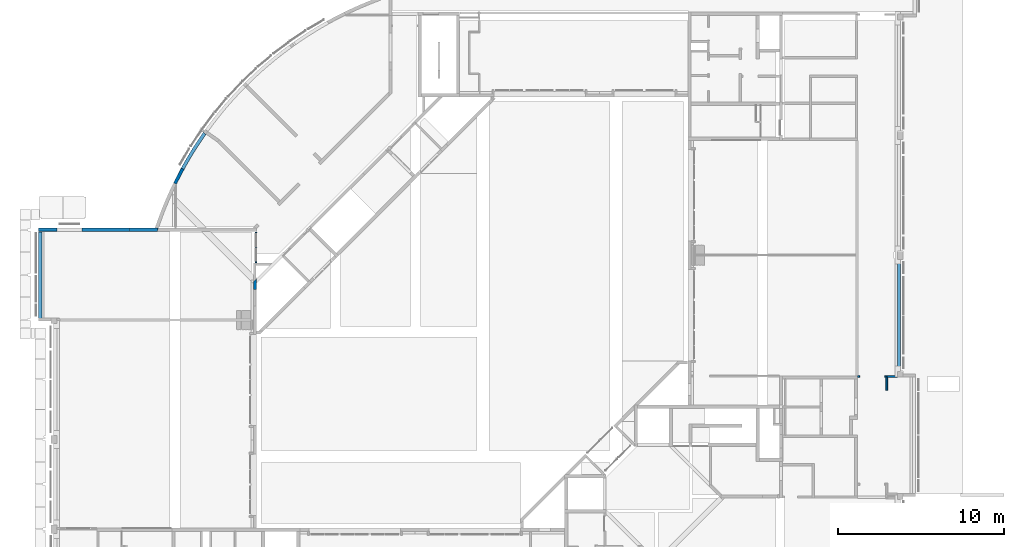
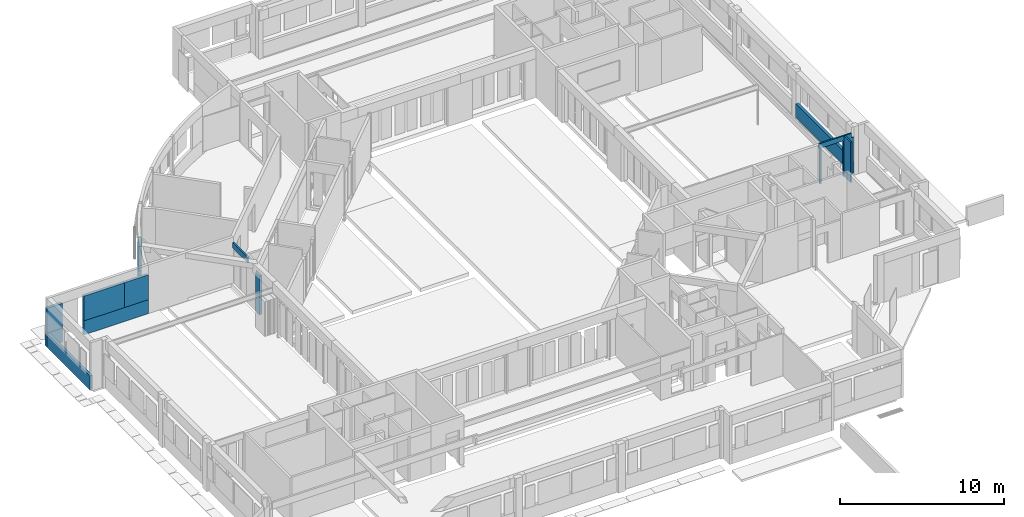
# One storey, part 18 of 30: 13 walls.
"""IFC4X3_ADD2 building model written with IfcOpenShell, lengths in millimetres."""

from ifc_helpers import new_model, si_unit, point, direction, frame, frame_2d, origin_with_axes, origin_2d_with_axis, place, context, subcontext, project, spatial, polyline, circle_curve, trimmed, segment, composite_curve, rectangle, outline, extrude, source, transform, mapped, material, type_object, type_shapes, element, save


model = new_model("IFC4X3_ADD2")

# Units and contexts
model_context = context("Model", 3, precision=1e-05, world=origin_with_axes(), true_north=direction((0.0, 1.0)))
body_context = subcontext(model_context, "Body", "Model", "MODEL_VIEW")
ifc_project = project(units=[si_unit("LENGTHUNIT", "METRE", prefix="MILLI"), si_unit("AREAUNIT", "SQUARE_METRE"), si_unit("VOLUMEUNIT", "CUBIC_METRE"), si_unit("PLANEANGLEUNIT", "RADIAN"), si_unit("TIMEUNIT", "SECOND"), si_unit("MASSUNIT", "GRAM")], contexts=[model_context])

# Site, building, storey
site_placement = place(None, origin_with_axes())
site = spatial("IfcSite", under=ifc_project, at=site_placement, Name="Site", CompositionType="ELEMENT")
building_placement = place(site_placement, origin_with_axes())
building = spatial("IfcBuilding", under=site, at=building_placement, Name="IFC Building Story")
storey_placement = place(building_placement, origin_with_axes())
storey = spatial("IfcBuildingStorey", under=building, at=storey_placement, Name="000", Elevation=0.0)

# Walls
ifc_material_1 = material(Name="BB_Beton_Bestaand")
wall_type_1 = type_object("IfcWallType", Name="BB_Beton_Bestaand 200", PredefinedType="NOTDEFINED", material=ifc_material_1)
wall_1_placement = place(storey_placement, origin_with_axes())
element("IfcWall", 1, at=wall_1_placement, inside=storey, type_object=wall_type_1, Name="Basic Wall:BB_XX_Wand uit beton, 200 mm", ObjectType="Basic Wall:BB_XX_Wand uit beton, 200 mm", PredefinedType="SOLIDWALL", context=body_context, shape_type="SweptSolid", body=[
    extrude(outline(composite_curve([segment(polyline([(-801.703805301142, -1551.187165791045), (-981.3701255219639, -1463.323559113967)]), True, "CONTINUOUS"), segment(trimmed(circle_curve(frame_2d((18966.08307705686, -11218.38049044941), x_axis=(1.0, 0.0)), 22205.00000006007), [point((-981.3701255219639, -1463.323559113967))], [point((809.7701881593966, 1564.824400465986))], False, "CARTESIAN"), True, "CONTINUOUS"), segment(polyline([(809.7701881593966, 1564.824400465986), (973.3037426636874, 1449.686324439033)]), True, "CONTINUOUS"), segment(trimmed(circle_curve(frame_2d((18966.08307705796, -11218.38049045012), x_axis=(1.0, 0.0)), 22005.00000006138), [point((973.3037426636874, 1449.686324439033))], [point((-801.703805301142, -1551.187165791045))], True, "CARTESIAN"), True, "CONTINUOUS")], self_intersect=False)), frame((-42616.95018250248, 34910.82472034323, -200.0), z_axis=(0.0, 0.0, 1.0), x_axis=(1.0, 0.0, 0.0)), (0.0, 0.0, 1.0), 1040.0),
])
wall_type_2 = type_object("IfcWallType", Name="BB_Beton_Bestaand 190", PredefinedType="NOTDEFINED", material=ifc_material_1)
wall_2_placement = place(storey_placement, origin_with_axes())
element("IfcWall", 2, at=wall_2_placement, inside=storey, type_object=wall_type_2, Name="Basic Wall:BB_XX_Wand uit beton, 190 mm", ObjectType="Basic Wall:BB_XX_Wand uit beton, 190 mm", PredefinedType="SOLIDWALL", context=body_context, shape_type="SweptSolid", body=[
    extrude(rectangle(XDim=1089.99999999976, YDim=190.0, at=origin_2d_with_axis()), frame((-51150.00000000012, 30635.0, -200.0), z_axis=(0.0, 0.0, 1.0), x_axis=(1.0, 0.0, 0.0)), (0.0, 0.0, 1.0), 1040.0),
])
wall_3_placement = place(storey_placement, origin_with_axes())
element("IfcWall", 3, at=wall_3_placement, inside=storey, type_object=wall_type_2, Name="Basic Wall:BB_XX_Wand uit beton, 190 mm", ObjectType="Basic Wall:BB_XX_Wand uit beton, 190 mm", PredefinedType="SOLIDWALL", context=body_context, shape_type="SweptSolid", body=[
    extrude(rectangle(XDim=5210.00000000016, YDim=189.9999999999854, at=frame_2d((0.0, 0.0), x_axis=(0.0, 1.0))), frame((-51600.0, 27900.00000000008, -200.0), z_axis=(0.0, 0.0, 1.0), x_axis=(1.0, 0.0, 0.0)), (0.0, 0.0, 1.0), 1040.0),
])
wall_4_placement = place(storey_placement, origin_with_axes())
element("IfcWall", 4, at=wall_4_placement, inside=storey, type_object=wall_type_2, Name="Basic Wall:BB_XX_Wand uit beton, 190 mm", ObjectType="Basic Wall:BB_XX_Wand uit beton, 190 mm", PredefinedType="SOLIDWALL", context=body_context, shape_type="SweptSolid", body=[
    extrude(rectangle(XDim=6709.99999999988, YDim=190.0, at=frame_2d((0.0, 0.0), x_axis=(0.0, 1.0))), frame((0.0, 25500.00000000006, -200.0), z_axis=(0.0, 0.0, 1.0), x_axis=(1.0, 0.0, 0.0)), (0.0, 0.0, 1.0), 1040.0),
])
wall_5_placement = place(storey_placement, origin_with_axes())
element("IfcWall", 5, at=wall_5_placement, inside=storey, type_object=wall_type_2, Name="Basic Wall:BB_XX_Wand uit beton, 190 mm", ObjectType="Basic Wall:BB_XX_Wand uit beton, 190 mm", PredefinedType="SOLIDWALL", context=body_context, shape_type="SweptSolid", body=[
    extrude(rectangle(XDim=1089.999999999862, YDim=190.0, at=origin_2d_with_axis()), frame((-51150.00000000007, 30630.0, 840.0), z_axis=(0.0, 0.0, 1.0), x_axis=(1.0, 0.0, 0.0)), (0.0, 0.0, 1.0), 1840.0),
])
wall_6_placement = place(storey_placement, origin_with_axes())
element("IfcWall", 6, at=wall_6_placement, inside=storey, type_object=wall_type_2, Name="Basic Wall:BB_XX_Wand uit beton, 190 mm", ObjectType="Basic Wall:BB_XX_Wand uit beton, 190 mm", PredefinedType="SOLIDWALL", context=body_context, shape_type="SweptSolid", body=[
    extrude(outline(polyline([(-95.0, -275.4184719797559), (-95.0, 180.4184719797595), (95.0, 370.4184719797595), (95.0, -275.4184719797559), (-95.0, -275.4184719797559)])), frame((-38700.0, 27320.41847198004, -200.0), z_axis=(0.0, 0.0, 1.0), x_axis=(1.0, 0.0, 0.0)), (0.0, 0.0, 1.0), 2880.0),
])
wall_7_placement = place(storey_placement, origin_with_axes())
element("IfcWall", 7, at=wall_7_placement, inside=storey, type_object=wall_type_2, Name="Basic Wall:BB_XX_Wand uit beton, 190 mm", ObjectType="Basic Wall:BB_XX_Wand uit beton, 190 mm", PredefinedType="SOLIDWALL", context=body_context, shape_type="SweptSolid", body=[
    extrude(outline(composite_curve([segment(polyline([(1784.807131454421, -108.0000000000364), (-2735.279200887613, -107.9999999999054)]), True, "CONTINUOUS"), segment(polyline([(-2735.279200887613, -107.9999999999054), (-2735.279200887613, 82.00000000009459)]), True, "CONTINUOUS"), segment(polyline([(-2735.279200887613, 82.00000000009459), (1847.922296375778, 82.00000000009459)]), True, "CONTINUOUS"), segment(trimmed(circle_curve(frame_2d((22694.36204515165, -6948.359183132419), x_axis=(1.0, 0.0)), 22000.00001007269), [point((1847.922296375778, 82.00000000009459))], [point((1837.828973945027, 51.99999999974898))], True, "CARTESIAN"), True, "CONTINUOUS"), segment(trimmed(circle_curve(frame_2d((22694.36203595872, -6948.359180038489), x_axis=(1.0, 0.0)), 22000.00000037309), [point((1837.828973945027, 51.99999999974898))], [point((1784.807131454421, -108.0000000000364))], True, "CARTESIAN"), True, "CONTINUOUS")], self_intersect=False)), frame((-46349.72079911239, 30642.99999999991, -200.0), z_axis=(0.0, 0.0, 1.0), x_axis=(1.0, 0.0, 0.0)), (0.0, 0.0, 1.0), 1040.0),
])
ifc_material_2 = material(Name="BB_Metselwerk_Bestaand")
wall_type_3 = type_object("IfcWallType", Name="BB_Metselwerk_Bestaand 190", PredefinedType="NOTDEFINED", material=ifc_material_2)
wall_8_placement = place(storey_placement, origin_with_axes())
element("IfcWall", 8, at=wall_8_placement, inside=storey, type_object=wall_type_3, Name="Basic Wall:BB_XX_Wand uit metselwerk, 190 mm", ObjectType="Basic Wall:BB_XX_Wand uit metselwerk, 190 mm", PredefinedType="SOLIDWALL", context=body_context, shape_type="SweptSolid", body=[
    extrude(rectangle(XDim=1661.369563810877, YDim=190.0, at=origin_2d_with_axis()), frame((-45404.31521809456, 30630.0, 840.0), z_axis=(0.0, 0.0, 1.0), x_axis=(1.0, 0.0, 0.0)), (0.0, 0.0, 1.0), 1840.0),
])
ifc_material_3 = material(Name="BB_Metselwerk_Betonsteen")
wall_type_4 = type_object("IfcWallType", Name="BB_Metselwerk_Betonsteen 190", PredefinedType="NOTDEFINED", material=ifc_material_3)
wall_9_placement = place(storey_placement, origin_with_axes())
element("IfcWall", 9, at=wall_9_placement, inside=storey, type_object=wall_type_4, Name="Basic Wall:BB_03.09.24#03_Wand uit metselwerk, 190 mm", ObjectType="Basic Wall:BB_03.09.24#03_Wand uit metselwerk, 190 mm", PredefinedType="SOLIDWALL", context=body_context, shape_type="SweptSolid", body=[
    extrude(outline(composite_curve([segment(polyline([(145.3962269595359, 486.2677931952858), (312.0239832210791, 394.9705268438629)]), True, "CONTINUOUS"), segment(trimmed(circle_curve(frame_2d((19618.91900491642, -10183.49957176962), x_axis=(1.0, 0.0)), 22015.00000013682), [point((312.0239832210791, 394.9705268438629))], [point((-143.4308303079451, -482.481377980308))], True, "CARTESIAN"), True, "CONTINUOUS"), segment(polyline([(-143.4308303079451, -482.481377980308), (-313.9893798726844, -398.7569420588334)]), True, "CONTINUOUS"), segment(trimmed(circle_curve(frame_2d((19618.91900491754, -10183.49957176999), x_axis=(1.0, 0.0)), 22205.00000013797), [point((-313.9893798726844, -398.7569420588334))], [point((145.3962269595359, 486.2677931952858))], False, "CARTESIAN"), True, "CONTINUOUS")], self_intersect=False)), frame((-43274.64629531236, 33841.52195257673, 840.0), z_axis=(0.0, 0.0, 1.0), x_axis=(1.0, 0.0, 0.0)), (0.0, 0.0, 1.0), 1840.0),
])
wall_10_placement = place(storey_placement, origin_with_axes())
element("IfcWall", 10, at=wall_10_placement, inside=storey, type_object=wall_type_4, Name="Basic Wall:BB_03.09.24#03_Wand uit metselwerk, 190 mm", ObjectType="Basic Wall:BB_03.09.24#03_Wand uit metselwerk, 190 mm", PredefinedType="SOLIDWALL", context=body_context, shape_type="SweptSolid", body=[
    extrude(rectangle(XDim=2850.000000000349, YDim=190.0, at=origin_2d_with_axis()), frame((-47659.99999999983, 30630.0, 840.0), z_axis=(0.0, 0.0, 1.0), x_axis=(1.0, 0.0, 0.0)), (0.0, 0.0, 1.0), 1840.0),
])
wall_type_5 = type_object("IfcWallType", Name="Basic Wall_BB_10.01.41#01_Gipskartonwand_MS100 _ 25.50.25_ 100 mm3", PredefinedType="NOTDEFINED")
shared_shape_1 = source(origin_with_axes(), body_context, "Body", "SweptSolid", [
    extrude(rectangle(XDim=1840.869805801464, YDim=12.50000000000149, at=origin_2d_with_axis()), frame((920.434902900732, 43.75000000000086, 0.0), z_axis=(0.0, 0.0, 1.0), x_axis=(1.0, 0.0, 0.0)), (0.0, 0.0, 1.0), 399.999999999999),
    extrude(rectangle(XDim=1840.869805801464, YDim=12.50000000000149, at=origin_2d_with_axis()), frame((920.434902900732, 31.24999999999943, 0.0), z_axis=(0.0, 0.0, 1.0), x_axis=(1.0, 0.0, 0.0)), (0.0, 0.0, 1.0), 399.999999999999),
    extrude(rectangle(XDim=1840.869805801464, YDim=49.9999999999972, at=origin_2d_with_axis()), frame((920.434902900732, 0.0, 0.0), z_axis=(0.0, 0.0, 1.0), x_axis=(1.0, 0.0, 0.0)), (0.0, 0.0, 1.0), 399.999999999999),
    extrude(rectangle(XDim=1840.869805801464, YDim=12.50000000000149, at=origin_2d_with_axis()), frame((920.434902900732, -31.24999999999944, 0.0), z_axis=(0.0, 0.0, 1.0), x_axis=(1.0, 0.0, 0.0)), (0.0, 0.0, 1.0), 399.999999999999),
    extrude(rectangle(XDim=1840.869805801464, YDim=12.49999999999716, at=origin_2d_with_axis()), frame((920.434902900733, -43.7499999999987, 0.0), z_axis=(0.0, 0.0, 1.0), x_axis=(1.0, 0.0, 0.0)), (0.0, 0.0, 1.0), 399.999999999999),
])
type_shapes(wall_type_5, [shared_shape_1])
wall_11_placement = place(storey_placement, frame((-38635.0, 30479.8698058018, 2670.0), z_axis=(0.0, 0.0, 1.0), x_axis=(0.0, -1.0, 0.0)))
element("IfcWall", 11, at=wall_11_placement, inside=storey, type_object=wall_type_5, Name="Basic Wall:BB_10.01.41#01_Gipskartonwand_MS100 / 25.50.25, 100 mm", ObjectType="Basic Wall:BB_10.01.41#01_Gipskartonwand_MS100 / 25.50.25, 100 mm", PredefinedType="PARTITIONING", context=body_context, shape_type="MappedRepresentation", body=[
    mapped(shared_shape_1, transform((0.0, 0.0, 0.0))),
])
wall_type_6 = type_object("IfcWallType", Name="Basic Wall_BB_10.01.41#21_Gipskartonwand_EI60_43dB_MS100 _ 25.50.25_ 100 mm3", PredefinedType="NOTDEFINED")
shared_shape_2 = source(origin_with_axes(), body_context, "Body", "SweptSolid", [
    extrude(outline(polyline([(-1135.714285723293, -940.0000000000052), (384.2857142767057, -940.0000000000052), (384.2857142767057, 1699.999999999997), (1136.785714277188, 1699.999999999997), (1136.785714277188, 800.0000000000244), (1124.285714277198, 800.0000000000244), (1124.285714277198, -980.0000000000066), (974.2857142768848, -980.0000000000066), (974.2857142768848, -1300.000000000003), (-1233.214285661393, -1300.000000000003), (-1233.214285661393, -980.0000000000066), (-1250.714285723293, -980.0000000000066), (-1250.714285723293, 1699.999999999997), (-1135.714285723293, 1699.999999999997), (-1135.714285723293, -940.0000000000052)])), frame((1345.714285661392, 37.49999999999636, 1699.999999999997), z_axis=(0.0, 1.0, 0.0), x_axis=(1.0, 0.0, 0.0)), (0.0, 0.0, 1.0), 12.5),
    extrude(outline(polyline([(-1133.928571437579, -940.0000000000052), (386.0714285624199, -940.0000000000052), (386.0714285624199, 1699.999999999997), (1138.571428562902, 1699.999999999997), (1138.571428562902, 800.0000000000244), (1126.071428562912, 800.0000000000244), (1126.071428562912, -980.0000000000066), (976.0714285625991, -980.0000000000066), (976.0714285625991, -1300.000000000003), (-1243.928571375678, -1300.000000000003), (-1243.928571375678, -980.0000000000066), (-1248.928571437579, -980.0000000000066), (-1248.928571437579, 1699.999999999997), (-1133.928571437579, 1699.999999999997), (-1133.928571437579, -940.0000000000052)])), frame((1343.928571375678, 25.0, 1699.999999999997), z_axis=(0.0, 1.0, 0.0), x_axis=(1.0, 0.0, 0.0)), (0.0, 0.0, 1.0), 12.5),
    extrude(outline(polyline([(-1123.214285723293, -940.0000000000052), (396.7857142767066, -940.0000000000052), (396.7857142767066, 1699.999999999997), (1149.285714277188, 1699.999999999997), (1149.285714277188, 800.0000000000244), (1136.785714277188, 800.0000000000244), (1136.785714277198, -980.0000000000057), (986.7857142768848, -980.0000000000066), (986.7857142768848, -1300.000000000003), (-1308.214285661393, -1300.000000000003), (-1308.214285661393, -980.0000000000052), (-1238.214285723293, -980.0000000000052), (-1238.214285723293, 1699.999999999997), (-1123.214285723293, 1699.999999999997), (-1123.214285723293, -940.0000000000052)])), frame((1333.214285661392, -25.0, 1699.999999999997), z_axis=(0.0, 1.0, 0.0), x_axis=(1.0, 0.0, 0.0)), (0.0, 0.0, 1.0), 49.99999999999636),
    extrude(outline(polyline([(-1265.312500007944, -822.500000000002), (254.6874999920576, -822.500000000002), (254.6874999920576, 1817.499999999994), (1007.187499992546, 1817.499999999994), (1007.187499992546, 917.5000000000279), (994.6874999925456, 917.5000000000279), (994.6874999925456, -822.500000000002), (1007.187499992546, -822.500000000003), (1007.187499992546, -862.500000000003), (844.6874999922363, -862.5000000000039), (844.6874999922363, -1182.500000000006), (-1462.812499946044, -1182.500000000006), (-1462.812499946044, -862.500000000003), (-1380.312500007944, -862.500000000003), (-1380.312500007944, 1817.499999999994), (-1265.312500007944, 1817.499999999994), (-1265.312500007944, -822.500000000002)])), frame((1475.312499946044, -37.49999999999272, 1817.499999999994), z_axis=(0.0, 1.0, 0.0), x_axis=(1.0, 0.0, 0.0)), (0.0, 0.0, 1.0), 12.50000000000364),
    extrude(outline(polyline([(-1589.285714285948, -1305.714285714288), (-1589.285714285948, 1694.285714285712), (-1474.285714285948, 1694.285714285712), (-1474.285714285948, -945.7142857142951), (45.71428571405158, -945.7142857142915), (45.71428571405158, 1694.285714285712), (798.2142857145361, 1694.285714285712), (798.2142857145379, 794.2857142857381), (785.7142857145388, 794.2857142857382), (785.7142857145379, -945.7142857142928), (798.2142857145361, -945.7142857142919), (798.2142857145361, -985.7142857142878), (635.7142857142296, -985.7142857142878), (635.7142857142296, -1305.714285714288), (-1589.285714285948, -1305.714285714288)])), frame((1684.285714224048, -50.0, 1694.285714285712), z_axis=(0.0, 1.0, 0.0), x_axis=(1.0, 0.0, 0.0)), (0.0, 0.0, 1.0), 12.49999999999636),
])
type_shapes(wall_type_6, [shared_shape_2])
wall_12_placement = place(storey_placement, frame((-2590.0, 21810.0, 0.0), z_axis=(0.0, 0.0, 1.0), x_axis=(1.0, 0.0, 0.0)))
element("IfcWall", 12, at=wall_12_placement, inside=storey, type_object=wall_type_6, Name="Basic Wall:BB_10.01.41#21_Gipskartonwand_EI60_43dB_MS100 / 25.50.25, 100 mm", ObjectType="Basic Wall:BB_10.01.41#21_Gipskartonwand_EI60_43dB_MS100 / 25.50.25, 100 mm", PredefinedType="PARTITIONING", context=body_context, shape_type="MappedRepresentation", body=[
    mapped(shared_shape_2, transform((0.0, 0.0, 0.0))),
])
wall_type_7 = type_object("IfcWallType", Name="Basic Wall_BB_10.01.41#21_Gipskartonwand_EI60_43dB_MS100 _ 25.50.25_ 100 mm11", PredefinedType="NOTDEFINED")
shared_shape_3 = source(origin_with_axes(), body_context, "Body", "SweptSolid", [
    extrude(rectangle(XDim=780.0000000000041, YDim=12.50000000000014, at=origin_2d_with_axis()), frame((390.0, 43.75000000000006, 0.0), z_axis=(0.0, 0.0, 1.0), x_axis=(1.0, 0.0, 0.0)), (0.0, 0.0, 1.0), 3000.0),
    extrude(rectangle(XDim=792.500000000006, YDim=12.50000000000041, at=origin_2d_with_axis()), frame((396.250000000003, 31.25, 0.0), z_axis=(0.0, 0.0, 1.0), x_axis=(1.0, 0.0, 0.0)), (0.0, 0.0, 1.0), 3000.0),
    extrude(rectangle(XDim=805.000000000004, YDim=49.9999999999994, at=origin_2d_with_axis()), frame((402.5000000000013, 0.0, 0.0), z_axis=(0.0, 0.0, 1.0), x_axis=(1.0, 0.0, 0.0)), (0.0, 0.0, 1.0), 3000.0),
    extrude(rectangle(XDim=780.0, YDim=12.50000000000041, at=origin_2d_with_axis()), frame((389.999999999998, -31.2499999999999, 0.0), z_axis=(0.0, 0.0, 1.0), x_axis=(1.0, 0.0, 0.0)), (0.0, 0.0, 1.0), 3000.0),
    extrude(rectangle(XDim=780.0, YDim=12.49999999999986, at=origin_2d_with_axis()), frame((390.000000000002, -43.74999999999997, 0.0), z_axis=(0.0, 0.0, 1.0), x_axis=(1.0, 0.0, 0.0)), (0.0, 0.0, 1.0), 3000.0),
])
type_shapes(wall_type_7, [shared_shape_3])
wall_13_placement = place(storey_placement, frame((-747.49999999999, 20980.0, 0.0), z_axis=(0.0, 0.0, 1.0), x_axis=(0.0, 1.0, 0.0)))
element("IfcWall", 13, at=wall_13_placement, inside=storey, type_object=wall_type_7, Name="Basic Wall:BB_10.01.41#21_Gipskartonwand_EI60_43dB_MS100 / 25.50.25, 100 mm", ObjectType="Basic Wall:BB_10.01.41#21_Gipskartonwand_EI60_43dB_MS100 / 25.50.25, 100 mm", PredefinedType="PARTITIONING", context=body_context, shape_type="MappedRepresentation", body=[
    mapped(shared_shape_3, transform((0.0, 0.0, 0.0))),
])

save(model, "model.ifc")
